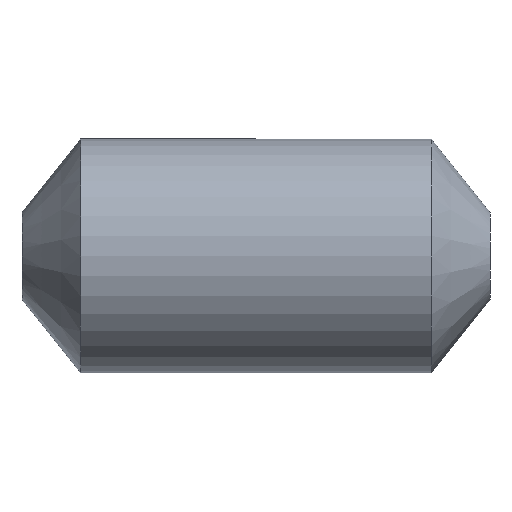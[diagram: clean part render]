
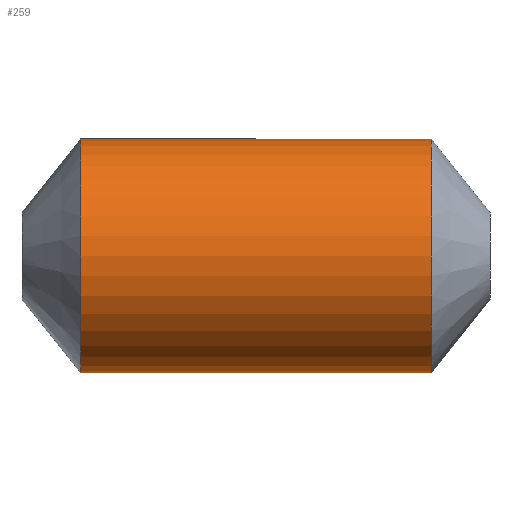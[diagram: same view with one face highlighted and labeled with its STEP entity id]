
A CAD part, left-side view. The second image highlights one B-rep face of the part: STEP entity #259.
In plain terms, the highlighted cylindrical face has radius 8000 mm (diameter 16000 mm), a partial arc.
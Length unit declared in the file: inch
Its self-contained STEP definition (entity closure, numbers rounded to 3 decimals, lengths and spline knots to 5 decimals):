
#10 = CARTESIAN_POINT ( 'NONE',  ( 0., -629.92126, 0. ) ) ;
#13 = DIRECTION ( 'NONE',  ( 0., -1., 0. ) ) ;
#20 = EDGE_CURVE ( 'NONE', #121, #396, #241, .T. ) ;
#23 = ORIENTED_EDGE ( 'NONE', *, *, #20, .T. ) ;
#37 = EDGE_LOOP ( 'NONE', ( #160, #414, #23, #64 ) ) ;
#40 = FACE_OUTER_BOUND ( 'NONE', #37, .T. ) ;
#64 = ORIENTED_EDGE ( 'NONE', *, *, #350, .F. ) ;
#67 = CARTESIAN_POINT ( 'NONE',  ( 0., 472.44094, 314.96063 ) ) ;
#93 = CIRCLE ( 'NONE', #339, 314.96063 ) ;
#121 = VERTEX_POINT ( 'NONE', #174 ) ;
#127 = VERTEX_POINT ( 'NONE', #431 ) ;
#160 = ORIENTED_EDGE ( 'NONE', *, *, #175, .F. ) ;
#170 = VECTOR ( 'NONE', #180, 39.37008 ) ;
#171 = DIRECTION ( 'NONE',  ( 0., -1., 0. ) ) ;
#174 = CARTESIAN_POINT ( 'NONE',  ( 0., 472.44094, -314.96063 ) ) ;
#175 = EDGE_CURVE ( 'NONE', #261, #127, #274, .T. ) ;
#180 = DIRECTION ( 'NONE',  ( 0., -1., 0. ) ) ;
#207 = DIRECTION ( 'NONE',  ( 0., 0., -1. ) ) ;
#221 = CIRCLE ( 'NONE', #249, 314.96063 ) ;
#241 = LINE ( 'NONE', #277, #247 ) ;
#247 = VECTOR ( 'NONE', #13, 39.37008 ) ;
#249 = AXIS2_PLACEMENT_3D ( 'NONE', #342, #171, #307 ) ;
#259 = ADVANCED_FACE ( 'NONE', ( #40 ), #278, .T. ) ;
#261 = VERTEX_POINT ( 'NONE', #67 ) ;
#274 = LINE ( 'NONE', #423, #170 ) ;
#277 = CARTESIAN_POINT ( 'NONE',  ( 0., -629.92126, -314.96063 ) ) ;
#278 = CYLINDRICAL_SURFACE ( 'NONE', #302, 314.96063 ) ;
#282 = CARTESIAN_POINT ( 'NONE',  ( 0., -472.44094, 0. ) ) ;
#289 = EDGE_CURVE ( 'NONE', #261, #121, #221, .T. ) ;
#291 = DIRECTION ( 'NONE',  ( 0., 0., -1. ) ) ;
#302 = AXIS2_PLACEMENT_3D ( 'NONE', #10, #416, #207 ) ;
#307 = DIRECTION ( 'NONE',  ( 0., 0., -1. ) ) ;
#325 = DIRECTION ( 'NONE',  ( 0., -1., 0. ) ) ;
#339 = AXIS2_PLACEMENT_3D ( 'NONE', #282, #325, #291 ) ;
#342 = CARTESIAN_POINT ( 'NONE',  ( 0., 472.44094, 0. ) ) ;
#350 = EDGE_CURVE ( 'NONE', #127, #396, #93, .T. ) ;
#387 = CARTESIAN_POINT ( 'NONE',  ( 0., -472.44094, -314.96063 ) ) ;
#396 = VERTEX_POINT ( 'NONE', #387 ) ;
#414 = ORIENTED_EDGE ( 'NONE', *, *, #289, .T. ) ;
#416 = DIRECTION ( 'NONE',  ( 0., -1., 0. ) ) ;
#423 = CARTESIAN_POINT ( 'NONE',  ( 0., -629.92126, 314.96063 ) ) ;
#431 = CARTESIAN_POINT ( 'NONE',  ( 0., -472.44094, 314.96063 ) ) ;
